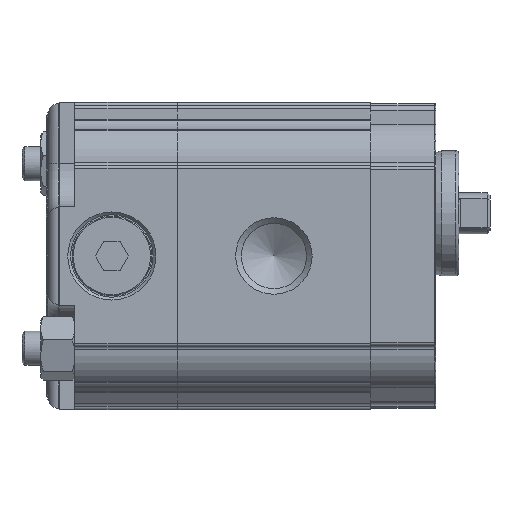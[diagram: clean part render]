
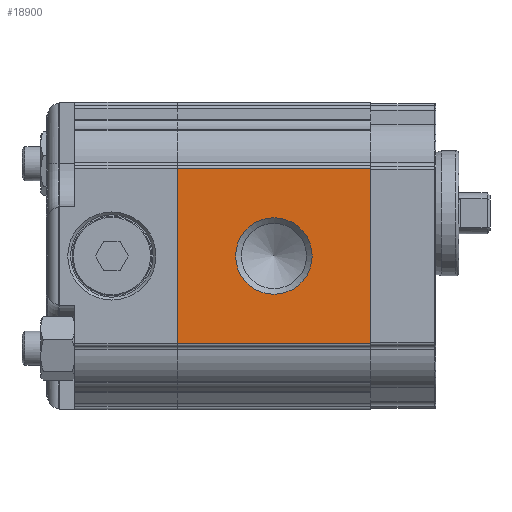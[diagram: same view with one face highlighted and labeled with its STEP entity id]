
A CAD part, left-side view. The second image highlights one B-rep face of the part: STEP entity #18900.
In plain terms, the highlighted planar face has unit normal (-1, 0, 0).
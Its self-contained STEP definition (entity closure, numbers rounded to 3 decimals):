
#1234=LINE('',#27752,#2253);
#1235=LINE('',#27756,#2254);
#1236=LINE('',#27758,#2255);
#1237=LINE('',#27760,#2256);
#2253=VECTOR('',#23065,1000.);
#2254=VECTOR('',#23070,1000.);
#2255=VECTOR('',#23071,1000.);
#2256=VECTOR('',#23072,1000.);
#4794=ORIENTED_EDGE('',*,*,#7641,.T.);
#4795=ORIENTED_EDGE('',*,*,#7642,.F.);
#4796=ORIENTED_EDGE('',*,*,#7640,.F.);
#4797=ORIENTED_EDGE('',*,*,#7643,.T.);
#4798=ORIENTED_EDGE('',*,*,#7644,.T.);
#7640=EDGE_CURVE('',#9209,#9208,#1234,.T.);
#7641=EDGE_CURVE('',#9210,#9210,#10214,.F.);
#7642=EDGE_CURVE('',#9208,#9211,#1235,.T.);
#7643=EDGE_CURVE('',#9209,#9212,#1236,.T.);
#7644=EDGE_CURVE('',#9212,#9211,#1237,.T.);
#9208=VERTEX_POINT('',#27749);
#9209=VERTEX_POINT('',#27751);
#9210=VERTEX_POINT('',#27755);
#9211=VERTEX_POINT('',#27757);
#9212=VERTEX_POINT('',#27759);
#10214=CIRCLE('',#20141,6.723);
#11048=EDGE_LOOP('',(#4794));
#11049=EDGE_LOOP('',(#4795,#4796,#4797,#4798));
#12046=FACE_BOUND('',#11048,.T.);
#12047=FACE_BOUND('',#11049,.T.);
#12716=PLANE('',#20140);
#18900=ADVANCED_FACE('',(#12046,#12047),#12716,.T.);
#20140=AXIS2_PLACEMENT_3D('',#27753,#23066,#23067);
#20141=AXIS2_PLACEMENT_3D('',#27754,#23068,#23069);
#23065=DIRECTION('',(0.,-1.,0.));
#23066=DIRECTION('',(-1.,0.,0.));
#23067=DIRECTION('',(0.,0.,1.));
#23068=DIRECTION('',(-1.,0.,0.));
#23069=DIRECTION('',(0.,0.,1.));
#23070=DIRECTION('',(0.,0.,-1.));
#23071=DIRECTION('',(0.,0.,-1.));
#23072=DIRECTION('',(0.,-1.,0.));
#27749=CARTESIAN_POINT('',(-25.,0.,15.418));
#27751=CARTESIAN_POINT('',(-25.,34.,15.418));
#27752=CARTESIAN_POINT('',(-25.,34.,15.418));
#27753=CARTESIAN_POINT('',(-25.,34.,15.418));
#27754=CARTESIAN_POINT('',(-25.,17.,0.));
#27755=CARTESIAN_POINT('',(-25.,17.,6.723));
#27756=CARTESIAN_POINT('',(-25.,0.,15.418));
#27757=CARTESIAN_POINT('',(-25.,0.,-15.418));
#27758=CARTESIAN_POINT('',(-25.,34.,15.418));
#27759=CARTESIAN_POINT('',(-25.,34.,-15.418));
#27760=CARTESIAN_POINT('',(-25.,34.,-15.418));
